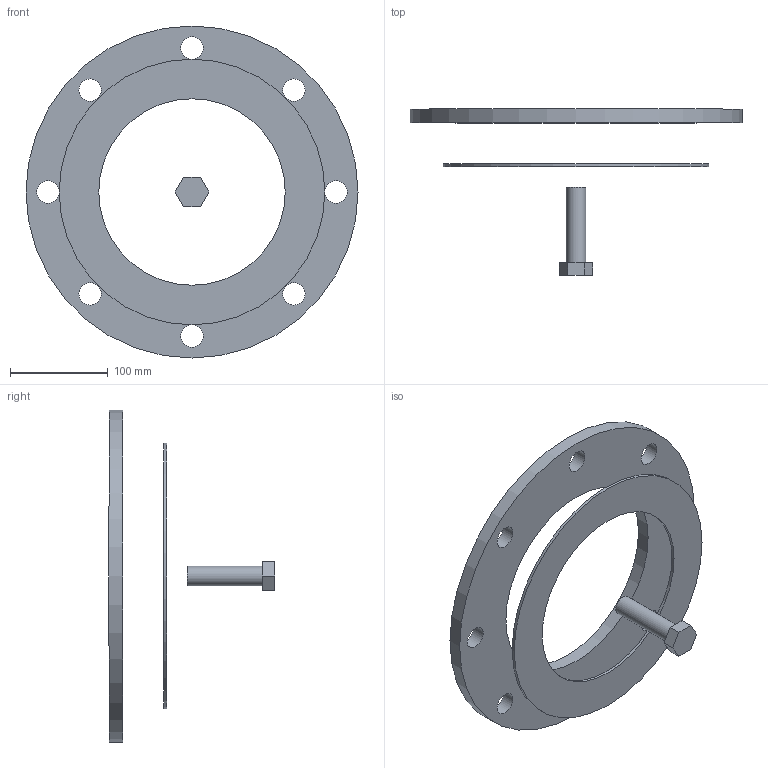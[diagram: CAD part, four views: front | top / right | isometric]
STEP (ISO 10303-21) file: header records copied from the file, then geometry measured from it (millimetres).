
FILE_DESCRIPTION( ( 'STEP AP214' ), '1' );
FILE_NAME( 'C:/Users/ilukic/Documents/ex/gebaudeentwasserung/pe/Geberit PE flange set/370746.stp', '2020-03-26T18:42:22', ( '' ), ( '' ), ' ', 'PARTsolutions', ' ' );
FILE_SCHEMA( ( 'AUTOMOTIVE_DESIGN { 1 0 10303 214 1 1 1 1 }' ) );
Length unit declared in the file: millimetre
Products named in the file (4): 370746; _370746_flange1; _370746_flange2; _370746_bolt
Assembly tree (3 placements, depth 2):
  370746
    _370746_flange1
    _370746_flange2
    _370746_bolt
Bounding box: 340 x 170 x 340 mm (x, y, z)
Volume: 880401.4 mm3; surface area: 211385.8 mm2
Topology: 3 solids, 3 shells, 26 faces, 58 edges, 39 vertices
Faces by surface type: plane 13, cylinder 13
Full cylindrical faces by diameter (mm): 20 x1, 23 x8, 191 x1, 206 x1, 272 x1, 340 x1
Entity records: 980 total; most frequent: DIRECTION 130, CARTESIAN_POINT 112, ORIENTED_EDGE 88, EDGE_LOOP 60, AXIS2_PLACEMENT_3D 56, EDGE_CURVE 44, FACE_OUTER_BOUND 39, VERTEX_POINT 38
